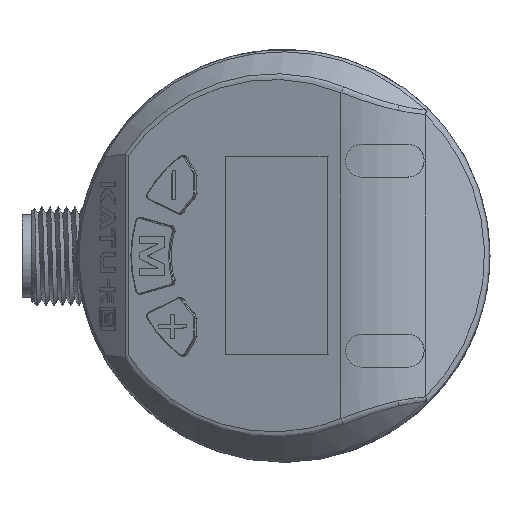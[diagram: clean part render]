
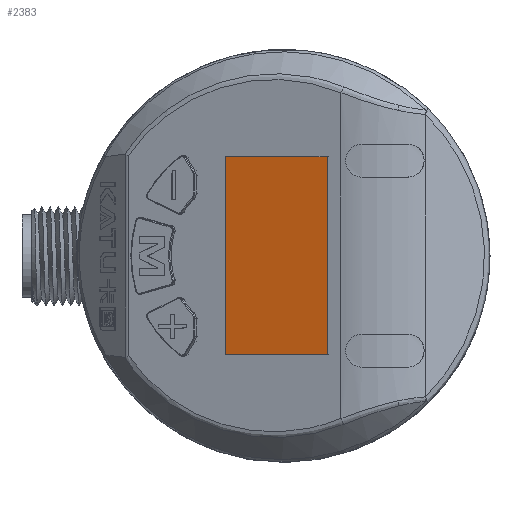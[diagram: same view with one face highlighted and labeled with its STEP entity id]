
A CAD part, top view. The second image highlights one B-rep face of the part: STEP entity #2383.
In plain terms, the highlighted planar face has unit normal (-0.342, 0, 0.94).
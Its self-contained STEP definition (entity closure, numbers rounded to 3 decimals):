
#1476=PLANE('',#12191);
#2383=ADVANCED_FACE('',(#3031),#1476,.T.);
#3031=FACE_OUTER_BOUND('',#3817,.T.);
#3817=EDGE_LOOP('',(#7188,#7189,#7190,#7191));
#7188=ORIENTED_EDGE('',*,*,#9636,.T.);
#7189=ORIENTED_EDGE('',*,*,#9637,.T.);
#7190=ORIENTED_EDGE('',*,*,#9638,.T.);
#7191=ORIENTED_EDGE('',*,*,#9639,.T.);
#8221=VERTEX_POINT('',#25452);
#8222=VERTEX_POINT('',#25453);
#8223=VERTEX_POINT('',#25455);
#8224=VERTEX_POINT('',#25457);
#9636=EDGE_CURVE('',#8221,#8222,#10411,.T.);
#9637=EDGE_CURVE('',#8222,#8223,#10412,.T.);
#9638=EDGE_CURVE('',#8223,#8224,#10413,.T.);
#9639=EDGE_CURVE('',#8224,#8221,#10414,.T.);
#10411=LINE('',#25451,#11172);
#10412=LINE('',#25454,#11173);
#10413=LINE('',#25456,#11174);
#10414=LINE('',#25458,#11175);
#11172=VECTOR('',#14941,1.);
#11173=VECTOR('',#14942,1.);
#11174=VECTOR('',#14943,1.);
#11175=VECTOR('',#14944,1.);
#12191=AXIS2_PLACEMENT_3D('',#25459,#14945,#14946);
#14941=DIRECTION('',(-0.94,0.,-0.342));
#14942=DIRECTION('',(0.,-1.,0.));
#14943=DIRECTION('',(0.94,0.,0.342));
#14944=DIRECTION('',(0.,1.,0.));
#14945=DIRECTION('',(-0.342,0.,0.94));
#14946=DIRECTION('',(-0.94,0.,-0.342));
#25451=CARTESIAN_POINT('',(45.306,12.006,113.2));
#25452=CARTESIAN_POINT('',(36.258,12.002,109.907));
#25453=CARTESIAN_POINT('',(23.939,11.997,105.423));
#25454=CARTESIAN_POINT('',(23.949,-15.759,105.427));
#25455=CARTESIAN_POINT('',(23.948,-11.997,105.426));
#25456=CARTESIAN_POINT('',(45.315,-11.988,113.203));
#25457=CARTESIAN_POINT('',(36.267,-11.992,109.91));
#25458=CARTESIAN_POINT('',(36.268,-15.753,109.91));
#25459=CARTESIAN_POINT('',(45.316,-15.75,113.204));
